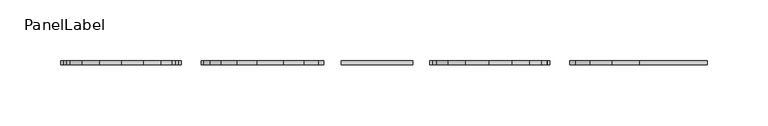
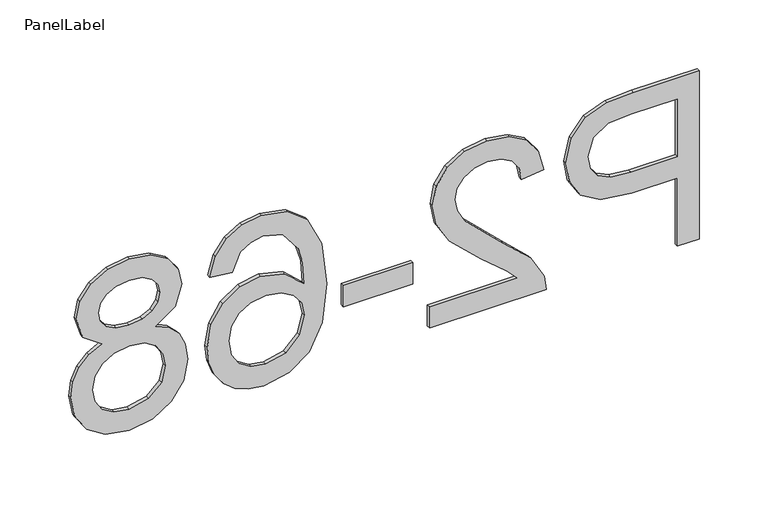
"""IFC4 building model written with IfcOpenShell, lengths in millimetres: fastener geometry, PanelLabel : Miranda."""

from ifc_helpers import new_model, si_unit, frame, origin, place, context, project, spatial, polyline, outline, extrude, source, transform, mapped, element, save


def panellabel_f1703738(model_context):
    return source(origin(), model_context, "Body", "SweptSolid", [
        extrude(outline(polyline([(1310.9113766, 260.2523077), (1460.9667612, 260.2523077), (1460.9667612, 204.6409615), (1459.5380112, 182.2205769), (1452.5224823, 163.9948558), (1438.0151747, 152.1801923), (1417.554742, 147.7107692), (1399.8693814, 150.7285457), (1385.1331073, 159.781875), (1375.1868093, 176.7116466), (1371.8713766, 203.35875), (1371.8713766, 241.4953846), (1310.9113766, 241.4953846), (1310.9113766, 260.2523077)]), holes=[polyline([(1390.6282997, 241.4953846), (1390.6282997, 202.2597115), (1392.3501266, 185.6275962), (1397.5156073, 174.6372115), (1405.8041891, 168.5100721), (1416.8953189, 166.4676923), (1432.4283958, 171.2851442), (1440.9276266, 183.9424038), (1442.2098381, 202.6993269), (1442.2098381, 241.4953846), (1390.6282997, 241.4953846)])]), frame((0.0, 60.325, 0.0), z_axis=(0.0, 1.0, 0.0), x_axis=(0.0, 0.0, 1.0)), (0.0, 0.0, 1.0), 3.175),
        extrude(outline(polyline([(1329.6682997, 32.8246154), (1310.9113766, 32.8246154), (1310.9113766, 131.2984615), (1323.8433958, 129.2835577), (1343.7543093, 117.8901923), (1365.4969535, 94.4074038), (1396.7462804, 62.0224038), (1407.5168573, 55.9502163), (1417.9943573, 53.9261538), (1427.3865569, 55.8357332), (1435.1943093, 61.5644712), (1440.4559559, 70.3705168), (1442.2098381, 81.5120192), (1440.4971698, 93.2121995), (1435.359165, 102.3021635), (1427.1988045, 108.1682813), (1416.4190689, 110.1969231), (1418.7636843, 128.9538462), (1436.9069775, 124.4065745), (1450.1595497, 114.5747596), (1458.2649583, 99.9712861), (1460.9667612, 81.1090385), (1457.9627227, 62.1094111), (1448.9506073, 47.5334135), (1435.4873862, 38.2602764), (1419.1300304, 35.1692308), (1401.3439247, 38.5029808), (1382.9533477, 49.5849519), (1357.254165, 76.4564423), (1339.211617, 98.0342308), (1329.6682997, 106.4968269), (1329.6682997, 32.8246154)])), frame((0.0, 60.325, 0.0), z_axis=(0.0, 1.0, 0.0), x_axis=(0.0, 0.0, 1.0)), (0.0, 0.0, 1.0), 3.175),
        extrude(outline(polyline([(-39.8584615, 63.5), (18.7569231, 63.5), (18.7569231, 60.325), (-39.8584615, 60.325), (-39.8584615, 63.5)])), frame((0.0, 0.0, 1355.4590689), z_axis=(0.0, 0.0, 1.0), x_axis=(1.0, 0.0, 0.0)), (0.0, 0.0, 1.0), 18.7569231),
        extrude(outline(polyline([(1421.1082997, -152.4), (1418.7636843, -133.6430769), (1434.406665, -126.5359615), (1440.2590448, -118.0275721), (1442.2098381, -107.7424038), (1437.6671458, -90.8172115), (1420.6137323, -78.0134135), (1406.6422059, -74.1255649), (1387.1846458, -72.6830769), (1402.1498862, -89.2236058), (1407.0406073, -109.7206731), (1403.6976987, -127.0488462), (1393.6689727, -141.5927885), (1378.3465448, -151.4566587), (1359.1225304, -154.7446154), (1345.6913646, -153.1968029), (1333.2401747, -148.5533654), (1322.6802468, -141.1989663), (1314.922867, -131.5182692), (1310.1557876, -119.9508894), (1308.5667612, -106.9364423), (1312.779742, -85.6563101), (1325.4186843, -68.7082212), (1347.729165, -57.6216707), (1380.9567612, -53.9261538), (1418.3149102, -58.0292308), (1443.8583958, -70.3384615), (1456.6896698, -87.1445913), (1460.9667612, -108.9147115), (1458.3199102, -125.3728125), (1450.3793573, -138.5521154), (1437.767891, -147.7840385), (1421.1082997, -152.4)]), holes=[polyline([(1359.4156073, -72.6830769), (1343.1681554, -77.0242788), (1331.3718093, -88.5641827), (1327.3236843, -105.4710577), (1329.421016, -117.8489784), (1335.7130112, -127.5800481), (1345.6043573, -133.8857812), (1358.499742, -135.9876923), (1370.8776626, -133.9132572), (1380.3156554, -127.6899519), (1386.2916771, -117.7940264), (1388.2836843, -104.7017308), (1386.2916771, -92.3421274), (1380.3156554, -82.0065865), (1371.106629, -75.0139543), (1359.4156073, -72.6830769)])]), frame((0.0, 60.325, 0.0), z_axis=(0.0, 1.0, 0.0), x_axis=(0.0, 0.0, 1.0)), (0.0, 0.0, 1.0), 3.175),
        extrude(outline(polyline([(1393.5590689, -198.4863462), (1405.2088766, -181.3962981), (1423.3430112, -175.8461538), (1438.006016, -178.8685096), (1450.122915, -187.9355769), (1458.2557997, -202.0307452), (1460.9667612, -220.1374038), (1458.1916891, -238.3539663), (1449.8664727, -252.6323077), (1437.557242, -261.8642308), (1422.8301266, -264.9415385), (1405.1539247, -259.4646635), (1393.5590689, -242.8508654), (1387.6105232, -254.3953486), (1378.8502708, -262.7984135), (1367.6996097, -267.9226803), (1354.5798381, -269.6307692), (1336.6471939, -266.2420673), (1321.828492, -256.0759615), (1311.8821939, -240.3780288), (1308.5667612, -220.3938462), (1311.8959319, -200.4096635), (1321.8834439, -184.7117308), (1336.8441049, -174.545625), (1355.0927227, -171.1569231), (1368.7207997, -172.9337019), (1379.930992, -178.2640385), (1388.3386362, -186.8731731), (1393.5590689, -198.4863462)]), holes=[polyline([(1422.793492, -194.6030769), (1414.6056554, -196.2653726), (1408.0663766, -201.2522596), (1403.7801266, -209.4171995), (1402.3513766, -220.6136538), (1403.7709679, -231.5490865), (1408.029742, -239.5903846), (1414.3492131, -244.5360577), (1421.9508958, -246.1846154), (1429.8410761, -244.4811058), (1436.366617, -239.3705769), (1440.7490328, -231.219375), (1442.2098381, -220.3938462), (1440.7810881, -209.4996274), (1436.4948381, -201.3621635), (1430.2120016, -196.2928486), (1422.793492, -194.6030769)]), polyline([(1355.7521458, -189.9138462), (1341.6295016, -193.0461058), (1331.060415, -204.1280769), (1327.3236843, -220.5403846), (1329.2882155, -233.3075481), (1335.1818093, -242.8875), (1344.1069174, -248.8772596), (1355.165992, -250.8738462), (1366.4128189, -248.813149), (1375.5348381, -242.6310577), (1381.5795497, -232.8312981), (1383.5944535, -219.9175962), (1381.6070256, -207.3290264), (1375.644742, -197.8452404), (1366.6967372, -191.8966947), (1355.7521458, -189.9138462)])]), frame((0.0, 60.325, 0.0), z_axis=(0.0, 1.0, 0.0), x_axis=(0.0, 0.0, 1.0)), (0.0, 0.0, 1.0), 3.175),
    ])


if __name__ == "__main__":
    model = new_model("IFC4")
    model_context = context("Model", 3, world=origin())
    ifc_project = project(units=[si_unit("LENGTHUNIT", "METRE", prefix="MILLI")], contexts=[model_context])
    site = spatial("IfcSite", under=ifc_project)
    building = spatial("IfcBuilding", under=site)
    placement = place(None, origin())
    panellabel_shape = panellabel_f1703738(model_context)
    element("IfcFastener", 1, ObjectType="PanelLabel : Miranda", at=placement, inside=building, context=model_context, shape_type="MappedRepresentation", body=[
        mapped(panellabel_shape, transform((0.0, 0.0, 0.0), x_axis=(1.0, 0.0, 0.0), y_axis=(0.0, 1.0, 0.0), z_axis=(0.0, 0.0, 1.0))),
    ])
    save(model, "model.ifc")
